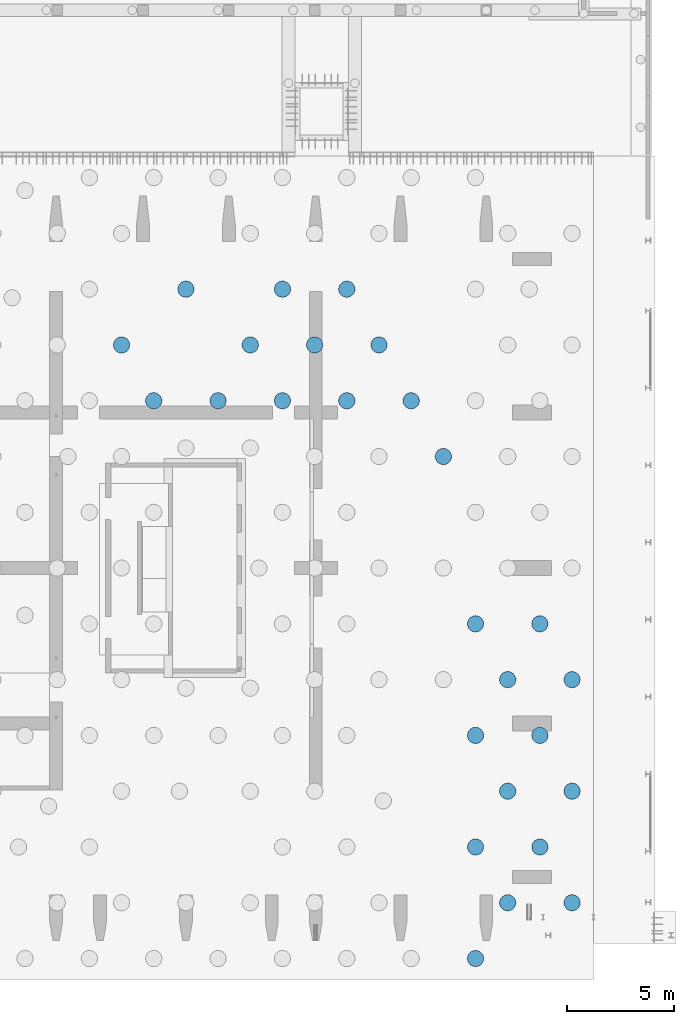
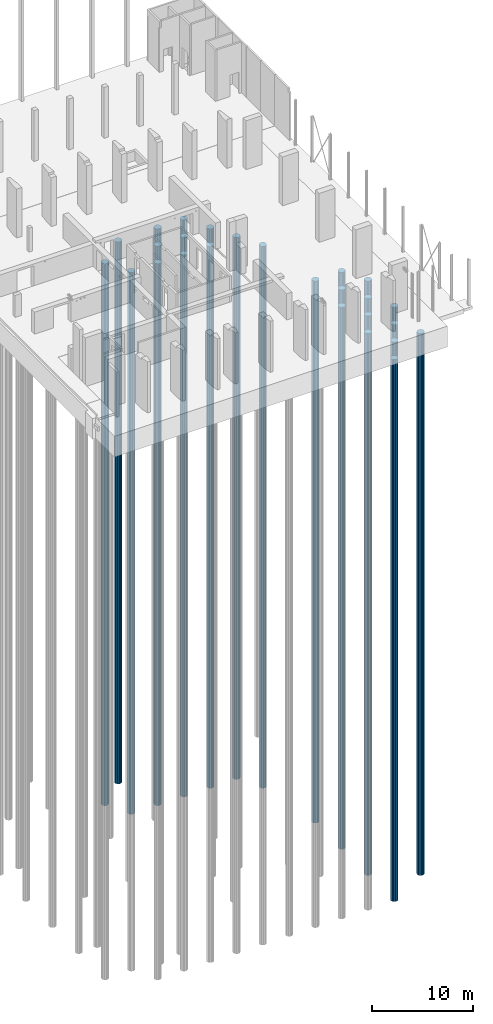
# One storey, part 5 of 26: 26 piles.
"""IFC2X3 building model written with IfcOpenShell, lengths in millimetres."""

from ifc_helpers import new_model, entity, si_unit, converted_unit, derived_unit, direction, frame, origin, place, context, subcontext, project, spatial, polyline, outline, extrude, material, element, save


model = new_model("IFC2X3")

# Units and contexts
model_context = context("Model", 3, precision=0.01, world=origin(), true_north=direction((6.12303176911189e-17, 1.0)))
body_context = subcontext(model_context, "Body", "Model", "MODEL_VIEW")
ifc_project = project(units=[si_unit("LENGTHUNIT", "METRE", prefix="MILLI"), si_unit("AREAUNIT", "SQUARE_METRE"), si_unit("VOLUMEUNIT", "CUBIC_METRE"), converted_unit("PLANEANGLEUNIT", "DEGREE", entity("IfcRatioMeasure", 0.0174532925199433), si_unit("PLANEANGLEUNIT", "RADIAN"), dimensions=[0, 0, 0, 0, 0, 0, 0]), si_unit("MASSUNIT", "GRAM", prefix="KILO"), derived_unit("MASSDENSITYUNIT", [(si_unit("MASSUNIT", "GRAM", prefix="KILO"), 1), (si_unit("LENGTHUNIT", "METRE"), -3)]), si_unit("TIMEUNIT", "SECOND"), si_unit("FREQUENCYUNIT", "HERTZ"), si_unit("THERMODYNAMICTEMPERATUREUNIT", "DEGREE_CELSIUS"), derived_unit("THERMALTRANSMITTANCEUNIT", [(si_unit("MASSUNIT", "GRAM", prefix="KILO"), 1), (si_unit("THERMODYNAMICTEMPERATUREUNIT", "KELVIN"), -1), (si_unit("TIMEUNIT", "SECOND"), -3)]), derived_unit("VOLUMETRICFLOWRATEUNIT", [(si_unit("LENGTHUNIT", "METRE"), 3), (si_unit("TIMEUNIT", "SECOND"), -1)]), si_unit("ELECTRICCURRENTUNIT", "AMPERE"), si_unit("ELECTRICVOLTAGEUNIT", "VOLT"), si_unit("POWERUNIT", "WATT"), si_unit("FORCEUNIT", "NEWTON", prefix="KILO"), si_unit("ILLUMINANCEUNIT", "LUX"), si_unit("LUMINOUSFLUXUNIT", "LUMEN"), si_unit("LUMINOUSINTENSITYUNIT", "CANDELA"), derived_unit("USERDEFINED", [(si_unit("MASSUNIT", "GRAM", prefix="KILO"), -1), (si_unit("LENGTHUNIT", "METRE"), -2), (si_unit("TIMEUNIT", "SECOND"), 3), (si_unit("LUMINOUSFLUXUNIT", "LUMEN"), 1)]), derived_unit("LINEARVELOCITYUNIT", [(si_unit("LENGTHUNIT", "METRE"), 1), (si_unit("TIMEUNIT", "SECOND"), -1)]), si_unit("PRESSUREUNIT", "PASCAL"), derived_unit("USERDEFINED", [(si_unit("LENGTHUNIT", "METRE"), -2), (si_unit("MASSUNIT", "GRAM", prefix="KILO"), 1), (si_unit("TIMEUNIT", "SECOND"), -2)])], contexts=[model_context])

# Site, building, storey
site_placement = place(None, origin())
site = spatial("IfcSite", under=ifc_project, at=site_placement, Name="Default", CompositionType="ELEMENT")
building_placement = place(site_placement, origin())
building = spatial("IfcBuilding", under=site, at=building_placement, Name="niet gebruiken", CompositionType="ELEMENT")
storey_placement = place(building_placement, origin())
storey = spatial("IfcBuildingStorey", under=building, at=storey_placement, Name="00 begane grond", CompositionType="ELEMENT", Elevation=0.0)

# Piles
ifc_material = material(Name="NLRS_f2_beton ihwg")
pile_1_placement = place(storey_placement, origin())
element("IfcPile", 1, at=pile_1_placement, inside=storey, material=ifc_material, Name="NLRS_17.12_SFO_TLB_funderingspaal grondverdringend_gen:Tubex_r762/950", ObjectType="NLRS_17.12_SFO_TLB_funderingspaal grondverdringend_gen:Tubex_r762/950", context=body_context, shape_type="SweptSolid", body=[
    extrude(outline(polyline([(-33.2063379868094, -379.550179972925), (33.2063379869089, -379.550179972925), (161.017557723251, -345.303266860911), (269.407683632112, -269.407683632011), (345.303266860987, -161.017557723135), (379.550179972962, -33.2063379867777), (368.017739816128, 98.6100561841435), (312.096928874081, 218.532622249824), (218.532622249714, 312.096928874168), (98.6100561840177, 368.017739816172), (33.2063379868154, 379.550179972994), (-33.2063379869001, 379.550179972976), (-161.017557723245, 345.30326686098), (-269.407683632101, 269.40768363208), (-345.303266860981, 161.017557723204), (-379.550179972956, 33.2063379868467), (-368.017739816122, -98.6100561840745), (-312.096928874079, -218.532622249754), (-218.532622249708, -312.096928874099), (-98.6100561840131, -368.01773981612), (-33.2063379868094, -379.550179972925)])), frame((146250.0, 30500.0, -68100.0), z_axis=(0.0, 0.0, 1.0), x_axis=(0.087155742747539, -0.996194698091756, 0.0)), (0.0, 0.0, 1.0), 65380.0),
])
pile_2_placement = place(storey_placement, origin())
element("IfcPile", 2, at=pile_2_placement, inside=storey, material=ifc_material, Name="NLRS_17.12_SFO_TLB_funderingspaal grondverdringend_gen:Tubex_r762/950", ObjectType="NLRS_17.12_SFO_TLB_funderingspaal grondverdringend_gen:Tubex_r762/950", context=body_context, shape_type="SweptSolid", body=[
    extrude(outline(polyline([(-33.2063379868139, -379.550179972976), (33.2063379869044, -379.550179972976), (161.017557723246, -345.303266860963), (269.407683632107, -269.407683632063), (345.303266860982, -161.017557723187), (379.550179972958, -33.2063379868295), (368.017739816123, 98.6100561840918), (312.096928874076, 218.532622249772), (218.53262224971, 312.096928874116), (98.6100561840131, 368.01773981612), (33.2063379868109, 379.550179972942), (-33.2063379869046, 379.550179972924), (-161.017557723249, 345.303266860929), (-269.407683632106, 269.407683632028), (-345.303266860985, 161.017557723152), (-379.550179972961, 33.2063379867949), (-368.017739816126, -98.6100561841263), (-312.096928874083, -218.532622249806), (-218.532622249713, -312.096928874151), (-98.6100561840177, -368.017739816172), (-33.2063379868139, -379.550179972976)])), frame((149250.0, 30500.0, -68100.0), z_axis=(0.0, 0.0, 1.0), x_axis=(0.087155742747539, -0.996194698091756, 0.0)), (0.0, 0.0, 1.0), 65380.0),
])
pile_3_placement = place(storey_placement, origin())
element("IfcPile", 3, at=pile_3_placement, inside=storey, material=ifc_material, Name="NLRS_17.12_SFO_TLB_funderingspaal grondverdringend_gen:Tubex_r762/950", ObjectType="NLRS_17.12_SFO_TLB_funderingspaal grondverdringend_gen:Tubex_r762/950", context=body_context, shape_type="SweptSolid", body=[
    extrude(outline(polyline([(-33.2063379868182, -379.550179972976), (33.2063379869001, -379.550179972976), (161.017557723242, -345.303266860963), (269.407683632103, -269.407683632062), (345.303266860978, -161.017557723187), (379.550179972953, -33.2063379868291), (368.017739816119, 98.6100561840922), (312.096928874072, 218.532622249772), (218.532622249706, 312.096928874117), (98.6100561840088, 368.01773981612), (33.2063379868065, 379.550179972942), (-33.2063379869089, 379.550179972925), (-161.017557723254, 345.303266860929), (-269.40768363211, 269.407683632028), (-345.303266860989, 161.017557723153), (-379.550179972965, 33.2063379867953), (-368.01773981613, -98.6100561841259), (-312.096928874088, -218.532622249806), (-218.532622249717, -312.09692887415), (-98.610056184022, -368.017739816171), (-33.2063379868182, -379.550179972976)])), frame((150750.0, 27900.0, -68100.0), z_axis=(0.0, 0.0, 1.0), x_axis=(0.087155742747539, -0.996194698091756, 0.0)), (0.0, 0.0, 1.0), 65380.0),
])
pile_4_placement = place(storey_placement, origin())
element("IfcPile", 4, at=pile_4_placement, inside=storey, material=ifc_material, Name="NLRS_17.12_SFO_TLB_funderingspaal grondverdringend_gen:Tubex_r762/950", ObjectType="NLRS_17.12_SFO_TLB_funderingspaal grondverdringend_gen:Tubex_r762/950", context=body_context, shape_type="SweptSolid", body=[
    extrude(outline(polyline([(-33.2063379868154, -379.550179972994), (33.2063379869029, -379.550179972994), (161.017557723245, -345.30326686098), (269.407683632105, -269.40768363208), (345.303266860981, -161.017557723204), (379.550179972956, -33.2063379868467), (368.017739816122, 98.6100561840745), (312.096928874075, 218.532622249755), (218.532622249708, 312.096928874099), (98.6100561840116, 368.017739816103), (33.2063379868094, 379.550179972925), (-33.2063379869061, 379.550179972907), (-161.017557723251, 345.303266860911), (-269.407683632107, 269.407683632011), (-345.303266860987, 161.017557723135), (-379.550179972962, 33.2063379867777), (-368.017739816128, -98.6100561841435), (-312.096928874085, -218.532622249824), (-218.532622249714, -312.096928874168), (-98.6100561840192, -368.017739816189), (-33.2063379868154, -379.550179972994)])), frame((147750.0, 27900.0, -68100.0), z_axis=(0.0, 0.0, 1.0), x_axis=(0.087155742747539, -0.996194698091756, 0.0)), (0.0, 0.0, 1.0), 65380.0),
])
pile_5_placement = place(storey_placement, origin())
element("IfcPile", 5, at=pile_5_placement, inside=storey, material=ifc_material, Name="NLRS_17.12_SFO_TLB_funderingspaal grondverdringend_gen:Tubex_r762/950", ObjectType="NLRS_17.12_SFO_TLB_funderingspaal grondverdringend_gen:Tubex_r762/950", context=body_context, shape_type="SweptSolid", body=[
    extrude(outline(polyline([(-33.2063379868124, -379.550179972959), (33.2063379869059, -379.550179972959), (161.017557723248, -345.303266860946), (269.407683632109, -269.407683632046), (345.303266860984, -161.01755772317), (379.550179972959, -33.2063379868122), (368.017739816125, 98.610056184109), (312.096928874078, 218.532622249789), (218.532622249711, 312.096928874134), (98.6100561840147, 368.017739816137), (33.2063379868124, 379.550179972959), (-33.2063379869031, 379.550179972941), (-161.017557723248, 345.303266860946), (-269.407683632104, 269.407683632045), (-345.303266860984, 161.01755772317), (-379.550179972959, 33.2063379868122), (-368.017739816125, -98.610056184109), (-312.096928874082, -218.532622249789), (-218.532622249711, -312.096928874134), (-98.6100561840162, -368.017739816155), (-33.2063379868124, -379.550179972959)])), frame((144750.0, 27900.0, -68100.0), z_axis=(0.0, 0.0, 1.0), x_axis=(0.087155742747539, -0.996194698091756, 0.0)), (0.0, 0.0, 1.0), 65380.0),
])
pile_6_placement = place(storey_placement, origin())
element("IfcPile", 6, at=pile_6_placement, inside=storey, material=ifc_material, Name="NLRS_17.12_SFO_TLB_funderingspaal grondverdringend_gen:Tubex_r762/950", ObjectType="NLRS_17.12_SFO_TLB_funderingspaal grondverdringend_gen:Tubex_r762/950", context=body_context, shape_type="SweptSolid", body=[
    extrude(outline(polyline([(-33.2063379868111, -379.550179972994), (33.2063379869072, -379.550179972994), (161.017557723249, -345.303266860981), (269.40768363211, -269.40768363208), (345.303266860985, -161.017557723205), (379.55017997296, -33.2063379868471), (368.017739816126, 98.6100561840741), (312.096928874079, 218.532622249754), (218.532622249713, 312.096928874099), (98.6100561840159, 368.017739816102), (33.2063379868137, 379.550179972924), (-33.2063379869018, 379.550179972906), (-161.017557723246, 345.303266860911), (-269.407683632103, 269.40768363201), (-345.303266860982, 161.017557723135), (-379.550179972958, 33.2063379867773), (-368.017739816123, -98.6100561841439), (-312.096928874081, -218.532622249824), (-218.53262224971, -312.096928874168), (-98.6100561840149, -368.01773981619), (-33.2063379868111, -379.550179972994)])), frame((141750.0, 30500.0, -68100.0), z_axis=(0.0, 0.0, 1.0), x_axis=(0.087155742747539, -0.996194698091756, 0.0)), (0.0, 0.0, 1.0), 65380.0),
])
pile_7_placement = place(storey_placement, origin())
element("IfcPile", 7, at=pile_7_placement, inside=storey, material=ifc_material, Name="NLRS_17.12_SFO_TLB_funderingspaal grondverdringend_gen:Tubex_r762/950", ObjectType="NLRS_17.12_SFO_TLB_funderingspaal grondverdringend_gen:Tubex_r762/950", context=body_context, shape_type="SweptSolid", body=[
    extrude(outline(polyline([(-33.2063379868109, -379.550179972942), (33.2063379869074, -379.550179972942), (161.017557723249, -345.303266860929), (269.40768363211, -269.407683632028), (345.303266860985, -161.017557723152), (379.550179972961, -33.2063379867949), (368.017739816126, 98.6100561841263), (312.096928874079, 218.532622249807), (218.532622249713, 312.096928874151), (98.6100561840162, 368.017739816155), (33.2063379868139, 379.550179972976), (-33.2063379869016, 379.550179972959), (-161.017557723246, 345.303266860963), (-269.407683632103, 269.407683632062), (-345.303266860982, 161.017557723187), (-379.550179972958, 33.2063379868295), (-368.017739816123, -98.6100561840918), (-312.09692887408, -218.532622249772), (-218.53262224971, -312.096928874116), (-98.6100561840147, -368.017739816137), (-33.2063379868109, -379.550179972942)])), frame((138750.0, 27900.0, -68100.0), z_axis=(0.0, 0.0, 1.0), x_axis=(0.087155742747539, -0.996194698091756, 0.0)), (0.0, 0.0, 1.0), 65380.0),
])
pile_8_placement = place(storey_placement, origin())
element("IfcPile", 8, at=pile_8_placement, inside=storey, material=ifc_material, Name="NLRS_17.12_SFO_TLB_funderingspaal grondverdringend_gen:Tubex_r762/950", ObjectType="NLRS_17.12_SFO_TLB_funderingspaal grondverdringend_gen:Tubex_r762/950", context=body_context, shape_type="SweptSolid", body=[
    extrude(outline(polyline([(-33.206337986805, -379.550179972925), (33.2063379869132, -379.550179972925), (161.017557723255, -345.303266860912), (269.407683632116, -269.407683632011), (345.303266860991, -161.017557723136), (379.550179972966, -33.2063379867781), (368.017739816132, 98.6100561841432), (312.096928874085, 218.532622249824), (218.532622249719, 312.096928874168), (98.610056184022, 368.017739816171), (33.2063379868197, 379.550179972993), (-33.2063379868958, 379.550179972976), (-161.01755772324, 345.30326686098), (-269.407683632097, 269.407683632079), (-345.303266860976, 161.017557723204), (-379.550179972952, 33.2063379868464), (-368.017739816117, -98.6100561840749), (-312.096928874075, -218.532622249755), (-218.532622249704, -312.096928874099), (-98.6100561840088, -368.01773981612), (-33.206337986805, -379.550179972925)])), frame((140250.0, 25300.0, -68100.0), z_axis=(0.0, 0.0, 1.0), x_axis=(0.087155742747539, -0.996194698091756, 0.0)), (0.0, 0.0, 1.0), 65380.0),
])
pile_9_placement = place(storey_placement, origin())
element("IfcPile", 9, at=pile_9_placement, inside=storey, material=ifc_material, Name="NLRS_17.12_SFO_TLB_funderingspaal grondverdringend_gen:Tubex_r762/950", ObjectType="NLRS_17.12_SFO_TLB_funderingspaal grondverdringend_gen:Tubex_r762/950", context=body_context, shape_type="SweptSolid", body=[
    extrude(outline(polyline([(-33.2063379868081, -379.550179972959), (33.2063379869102, -379.550179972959), (161.017557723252, -345.303266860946), (269.407683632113, -269.407683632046), (345.303266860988, -161.01755772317), (379.550179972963, -33.2063379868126), (368.017739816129, 98.6100561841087), (312.096928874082, 218.532622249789), (218.532622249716, 312.096928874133), (98.610056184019, 368.017739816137), (33.2063379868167, 379.550179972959), (-33.2063379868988, 379.550179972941), (-161.017557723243, 345.303266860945), (-269.4076836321, 269.407683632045), (-345.303266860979, 161.017557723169), (-379.550179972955, 33.2063379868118), (-368.01773981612, -98.6100561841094), (-312.096928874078, -218.532622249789), (-218.532622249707, -312.096928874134), (-98.6100561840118, -368.017739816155), (-33.2063379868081, -379.550179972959)])), frame((143250.0, 25300.0, -68100.0), z_axis=(0.0, 0.0, 1.0), x_axis=(0.087155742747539, -0.996194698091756, 0.0)), (0.0, 0.0, 1.0), 65380.0),
])
pile_10_placement = place(storey_placement, origin())
element("IfcPile", 10, at=pile_10_placement, inside=storey, material=ifc_material, Name="NLRS_17.12_SFO_TLB_funderingspaal grondverdringend_gen:Tubex_r762/950", ObjectType="NLRS_17.12_SFO_TLB_funderingspaal grondverdringend_gen:Tubex_r762/950", context=body_context, shape_type="SweptSolid", body=[
    extrude(outline(polyline([(-33.2063379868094, -379.550179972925), (33.2063379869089, -379.550179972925), (161.017557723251, -345.303266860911), (269.407683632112, -269.407683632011), (345.303266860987, -161.017557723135), (379.550179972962, -33.2063379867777), (368.017739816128, 98.6100561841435), (312.096928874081, 218.532622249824), (218.532622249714, 312.096928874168), (98.6100561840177, 368.017739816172), (33.2063379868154, 379.550179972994), (-33.2063379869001, 379.550179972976), (-161.017557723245, 345.30326686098), (-269.407683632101, 269.40768363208), (-345.303266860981, 161.017557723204), (-379.550179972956, 33.2063379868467), (-368.017739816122, -98.6100561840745), (-312.096928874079, -218.532622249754), (-218.532622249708, -312.096928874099), (-98.6100561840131, -368.01773981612), (-33.2063379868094, -379.550179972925)])), frame((146250.0, 25300.0, -68100.0), z_axis=(0.0, 0.0, 1.0), x_axis=(0.087155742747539, -0.996194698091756, 0.0)), (0.0, 0.0, 1.0), 65380.0),
])
pile_11_placement = place(storey_placement, origin())
element("IfcPile", 11, at=pile_11_placement, inside=storey, material=ifc_material, Name="NLRS_17.12_SFO_TLB_funderingspaal grondverdringend_gen:Tubex_r762/950", ObjectType="NLRS_17.12_SFO_TLB_funderingspaal grondverdringend_gen:Tubex_r762/950", context=body_context, shape_type="SweptSolid", body=[
    extrude(outline(polyline([(-33.2063379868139, -379.550179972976), (33.2063379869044, -379.550179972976), (161.017557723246, -345.303266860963), (269.407683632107, -269.407683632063), (345.303266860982, -161.017557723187), (379.550179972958, -33.2063379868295), (368.017739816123, 98.6100561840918), (312.096928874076, 218.532622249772), (218.53262224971, 312.096928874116), (98.6100561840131, 368.01773981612), (33.2063379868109, 379.550179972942), (-33.2063379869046, 379.550179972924), (-161.017557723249, 345.303266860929), (-269.407683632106, 269.407683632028), (-345.303266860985, 161.017557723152), (-379.550179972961, 33.2063379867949), (-368.017739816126, -98.6100561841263), (-312.096928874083, -218.532622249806), (-218.532622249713, -312.096928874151), (-98.6100561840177, -368.017739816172), (-33.2063379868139, -379.550179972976)])), frame((149250.0, 25300.0, -68100.0), z_axis=(0.0, 0.0, 1.0), x_axis=(0.087155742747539, -0.996194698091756, 0.0)), (0.0, 0.0, 1.0), 65380.0),
])
pile_12_placement = place(storey_placement, origin())
element("IfcPile", 12, at=pile_12_placement, inside=storey, material=ifc_material, Name="NLRS_17.12_SFO_TLB_funderingspaal grondverdringend_gen:Tubex_r762/950", ObjectType="NLRS_17.12_SFO_TLB_funderingspaal grondverdringend_gen:Tubex_r762/950", context=body_context, shape_type="SweptSolid", body=[
    extrude(outline(polyline([(-33.2063379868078, -379.550179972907), (33.2063379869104, -379.550179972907), (161.017557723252, -345.303266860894), (269.407683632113, -269.407683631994), (345.303266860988, -161.017557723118), (379.550179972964, -33.2063379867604), (368.017739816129, 98.6100561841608), (312.096928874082, 218.532622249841), (218.532622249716, 312.096928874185), (98.6100561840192, 368.017739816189), (33.2063379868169, 379.550179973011), (-33.2063379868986, 379.550179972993), (-161.017557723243, 345.303266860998), (-269.4076836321, 269.407683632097), (-345.303266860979, 161.017557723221), (-379.550179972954, 33.206337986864), (-368.01773981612, -98.6100561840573), (-312.096928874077, -218.532622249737), (-218.532622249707, -312.096928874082), (-98.6100561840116, -368.017739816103), (-33.2063379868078, -379.550179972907)])), frame((152250.0, 25300.0, -68100.0), z_axis=(0.0, 0.0, 1.0), x_axis=(0.087155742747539, -0.996194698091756, 0.0)), (0.0, 0.0, 1.0), 65380.0),
])
pile_13_placement = place(storey_placement, origin())
element("IfcPile", 13, at=pile_13_placement, inside=storey, material=ifc_material, Name="NLRS_17.12_SFO_TLB_funderingspaal grondverdringend_gen:Tubex_r762/950", ObjectType="NLRS_17.12_SFO_TLB_funderingspaal grondverdringend_gen:Tubex_r762/950", context=body_context, shape_type="SweptSolid", body=[
    extrude(outline(polyline([(-33.2063379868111, -379.550179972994), (33.2063379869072, -379.550179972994), (161.017557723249, -345.303266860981), (269.40768363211, -269.40768363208), (345.303266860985, -161.017557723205), (379.55017997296, -33.2063379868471), (368.017739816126, 98.6100561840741), (312.096928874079, 218.532622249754), (218.532622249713, 312.096928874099), (98.6100561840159, 368.017739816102), (33.2063379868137, 379.550179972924), (-33.2063379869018, 379.550179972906), (-161.017557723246, 345.303266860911), (-269.407683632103, 269.40768363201), (-345.303266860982, 161.017557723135), (-379.550179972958, 33.2063379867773), (-368.017739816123, -98.6100561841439), (-312.096928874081, -218.532622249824), (-218.53262224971, -312.096928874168), (-98.6100561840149, -368.01773981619), (-33.2063379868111, -379.550179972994)])), frame((153750.0, 22700.0, -68100.0), z_axis=(0.0, 0.0, 1.0), x_axis=(0.087155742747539, -0.996194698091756, 0.0)), (0.0, 0.0, 1.0), 65380.0),
])
pile_14_placement = place(storey_placement, origin())
element("IfcPile", 14, at=pile_14_placement, inside=storey, material=ifc_material, Name="NLRS_17.12_SFO_TLB_funderingspaal grondverdringend_gen:Tubex_r762/950", ObjectType="NLRS_17.12_SFO_TLB_funderingspaal grondverdringend_gen:Tubex_r762/950", context=body_context, shape_type="SweptSolid", body=[
    extrude(outline(polyline([(-33.2063379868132, -379.550179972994), (33.2063379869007, -379.550179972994), (161.017557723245, -345.303266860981), (269.407683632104, -269.407683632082), (345.303266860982, -161.017557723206), (379.550179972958, -33.2063379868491), (368.017739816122, 98.6100561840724), (312.09692887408, 218.532622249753), (218.532622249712, 312.096928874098), (98.6100561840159, 368.017739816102), (33.2063379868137, 379.550179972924), (-33.2063379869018, 379.550179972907), (-161.017557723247, 345.303266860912), (-269.407683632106, 269.407683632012), (-345.303266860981, 161.017557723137), (-379.55017997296, 33.2063379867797), (-368.017739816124, -98.6100561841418), (-312.096928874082, -218.532622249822), (-218.532622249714, -312.096928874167), (-98.6100561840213, -368.017739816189), (-33.2063379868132, -379.550179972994)])), frame((155250.0, 14900.0, -68100.0), z_axis=(0.0, 0.0, 1.0), x_axis=(0.0871557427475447, -0.996194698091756, 0.0)), (0.0, 0.0, 1.0), 65380.0),
])
pile_15_placement = place(storey_placement, origin())
element("IfcPile", 15, at=pile_15_placement, inside=storey, material=ifc_material, Name="NLRS_17.12_SFO_TLB_funderingspaal grondverdringend_gen:Tubex_r762/950", ObjectType="NLRS_17.12_SFO_TLB_funderingspaal grondverdringend_gen:Tubex_r762/950", context=body_context, shape_type="SweptSolid", body=[
    extrude(outline(polyline([(-33.2063379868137, -379.550179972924), (33.2063379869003, -379.550179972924), (161.017557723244, -345.303266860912), (269.407683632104, -269.407683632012), (345.303266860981, -161.017557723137), (379.550179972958, -33.2063379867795), (368.017739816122, 98.610056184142), (312.09692887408, 218.532622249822), (218.532622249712, 312.096928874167), (98.610056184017, 368.017739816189), (33.2063379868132, 379.550179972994), (-33.2063379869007, 379.550179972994), (-161.017557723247, 345.303266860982), (-269.407683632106, 269.407683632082), (-345.303266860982, 161.017557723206), (-379.55017997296, 33.2063379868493), (-368.017739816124, -98.6100561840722), (-312.096928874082, -218.532622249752), (-218.532622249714, -312.096928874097), (-98.6100561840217, -368.017739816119), (-33.2063379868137, -379.550179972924)])), frame((158250.0, 14900.0, -68100.0), z_axis=(0.0, 0.0, 1.0), x_axis=(0.0871557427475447, -0.996194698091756, 0.0)), (0.0, 0.0, 1.0), 65380.0),
])
pile_16_placement = place(storey_placement, origin())
element("IfcPile", 16, at=pile_16_placement, inside=storey, material=ifc_material, Name="NLRS_17.12_SFO_TLB_funderingspaal grondverdringend_gen:Tubex_r762/950", ObjectType="NLRS_17.12_SFO_TLB_funderingspaal grondverdringend_gen:Tubex_r762/950", context=body_context, shape_type="SweptSolid", body=[
    extrude(outline(polyline([(-33.2063379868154, -379.550179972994), (33.2063379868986, -379.550179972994), (161.017557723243, -345.303266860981), (269.407683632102, -269.407683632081), (345.30326686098, -161.017557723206), (379.550179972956, -33.206337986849), (368.01773981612, 98.6100561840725), (312.096928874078, 218.532622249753), (218.53262224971, 312.096928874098), (98.6100561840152, 368.017739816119), (33.2063379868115, 379.550179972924), (-33.2063379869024, 379.550179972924), (-161.017557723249, 345.303266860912), (-269.407683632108, 269.407683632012), (-345.303266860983, 161.017557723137), (-379.550179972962, 33.2063379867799), (-368.017739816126, -98.6100561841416), (-312.096928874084, -218.532622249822), (-218.532622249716, -312.096928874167), (-98.6100561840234, -368.017739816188), (-33.2063379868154, -379.550179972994)])), frame((159750.0, 12300.0, -68100.0), z_axis=(0.0, 0.0, 1.0), x_axis=(0.0871557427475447, -0.996194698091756, 0.0)), (0.0, 0.0, 1.0), 65380.0),
])
pile_17_placement = place(storey_placement, origin())
element("IfcPile", 17, at=pile_17_placement, inside=storey, material=ifc_material, Name="NLRS_17.12_SFO_TLB_funderingspaal grondverdringend_gen:Tubex_r762/950", ObjectType="NLRS_17.12_SFO_TLB_funderingspaal grondverdringend_gen:Tubex_r762/950", context=body_context, shape_type="SweptSolid", body=[
    extrude(outline(polyline([(-33.2063379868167, -379.550179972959), (33.2063379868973, -379.550179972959), (161.017557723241, -345.303266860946), (269.4076836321, -269.407683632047), (345.303266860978, -161.017557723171), (379.550179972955, -33.206337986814), (368.017739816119, 98.6100561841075), (312.096928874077, 218.532622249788), (218.532622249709, 312.096928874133), (98.6100561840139, 368.017739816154), (33.2063379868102, 379.550179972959), (-33.2063379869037, 379.550179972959), (-161.01755772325, 345.303266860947), (-269.407683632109, 269.407683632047), (-345.303266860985, 161.017557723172), (-379.550179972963, 33.2063379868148), (-368.017739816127, -98.6100561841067), (-312.096928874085, -218.532622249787), (-218.532622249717, -312.096928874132), (-98.6100561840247, -368.017739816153), (-33.2063379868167, -379.550179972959)])), frame((156750.0, 12300.0, -68100.0), z_axis=(0.0, 0.0, 1.0), x_axis=(0.0871557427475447, -0.996194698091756, 0.0)), (0.0, 0.0, 1.0), 65380.0),
])
pile_18_placement = place(storey_placement, origin())
element("IfcPile", 18, at=pile_18_placement, inside=storey, material=ifc_material, Name="NLRS_17.12_SFO_TLB_funderingspaal grondverdringend_gen:Tubex_r762/950", ObjectType="NLRS_17.12_SFO_TLB_funderingspaal grondverdringend_gen:Tubex_r762/950", context=body_context, shape_type="SweptSolid", body=[
    extrude(outline(polyline([(-33.2063379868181, -379.550179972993), (33.2063379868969, -379.550179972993), (161.017557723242, -345.303266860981), (269.407683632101, -269.407683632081), (345.303266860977, -161.017557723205), (379.550179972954, -33.2063379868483), (368.017739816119, 98.6100561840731), (312.096928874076, 218.532622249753), (218.532622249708, 312.096928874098), (98.6100561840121, 368.017739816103), (33.2063379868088, 379.550179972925), (-33.2063379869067, 379.550179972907), (-161.017557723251, 345.303266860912), (-269.40768363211, 269.407683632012), (-345.303266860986, 161.017557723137), (-379.550179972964, 33.2063379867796), (-368.017739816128, -98.6100561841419), (-312.096928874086, -218.532622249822), (-218.532622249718, -312.096928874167), (-98.6100561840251, -368.017739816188), (-33.2063379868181, -379.550179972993)])), frame((155250.0, 9700.0, -68100.0), z_axis=(0.0, 0.0, 1.0), x_axis=(0.0871557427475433, -0.996194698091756, 0.0)), (0.0, 0.0, 1.0), 65380.0),
])
pile_19_placement = place(storey_placement, origin())
element("IfcPile", 19, at=pile_19_placement, inside=storey, material=ifc_material, Name="NLRS_17.12_SFO_TLB_funderingspaal grondverdringend_gen:Tubex_r762/950", ObjectType="NLRS_17.12_SFO_TLB_funderingspaal grondverdringend_gen:Tubex_r762/950", context=body_context, shape_type="SweptSolid", body=[
    extrude(outline(polyline([(-33.2063379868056, -379.550179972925), (33.2063379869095, -379.550179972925), (161.017557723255, -345.303266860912), (269.407683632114, -269.407683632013), (345.303266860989, -161.017557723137), (379.550179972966, -33.2063379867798), (368.017739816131, 98.6100561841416), (312.096928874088, 218.532622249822), (218.53262224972, 312.096928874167), (98.6100561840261, 368.017739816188), (33.2063379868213, 379.550179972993), (-33.2063379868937, 379.550179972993), (-161.017557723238, 345.303266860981), (-269.407683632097, 269.407683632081), (-345.303266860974, 161.017557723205), (-379.55017997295, 33.206337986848), (-368.017739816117, -98.6100561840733), (-312.096928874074, -218.532622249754), (-218.532622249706, -312.096928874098), (-98.6100561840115, -368.01773981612), (-33.2063379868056, -379.550179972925)])), frame((158250.0, 9700.0, -68100.0), z_axis=(0.0, 0.0, 1.0), x_axis=(0.0871557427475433, -0.996194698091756, 0.0)), (0.0, 0.0, 1.0), 65380.0),
])
pile_20_placement = place(storey_placement, origin())
element("IfcPile", 20, at=pile_20_placement, inside=storey, material=ifc_material, Name="NLRS_17.12_SFO_TLB_funderingspaal grondverdringend_gen:Tubex_r762/950", ObjectType="NLRS_17.12_SFO_TLB_funderingspaal grondverdringend_gen:Tubex_r762/950", context=body_context, shape_type="SweptSolid", body=[
    extrude(outline(polyline([(-33.2063379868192, -379.550179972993), (33.2063379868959, -379.550179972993), (161.017557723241, -345.303266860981), (269.4076836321, -269.407683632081), (345.303266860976, -161.017557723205), (379.550179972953, -33.2063379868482), (368.017739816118, 98.6100561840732), (312.096928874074, 218.532622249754), (218.532622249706, 312.096928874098), (98.6100561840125, 368.01773981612), (33.2063379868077, 379.550179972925), (-33.2063379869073, 379.550179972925), (-161.017557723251, 345.303266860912), (-269.407683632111, 269.407683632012), (-345.303266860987, 161.017557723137), (-379.550179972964, 33.2063379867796), (-368.01773981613, -98.6100561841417), (-312.096928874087, -218.532622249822), (-218.532622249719, -312.096928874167), (-98.6100561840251, -368.017739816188), (-33.2063379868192, -379.550179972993)])), frame((159750.0, 7100.0, -68100.0), z_axis=(0.0, 0.0, 1.0), x_axis=(0.0871557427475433, -0.996194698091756, 0.0)), (0.0, 0.0, 1.0), 65380.0),
])
pile_21_placement = place(storey_placement, origin())
element("IfcPile", 21, at=pile_21_placement, inside=storey, material=ifc_material, Name="NLRS_17.12_SFO_TLB_funderingspaal grondverdringend_gen:Tubex_r762/950", ObjectType="NLRS_17.12_SFO_TLB_funderingspaal grondverdringend_gen:Tubex_r762/950", context=body_context, shape_type="SweptSolid", body=[
    extrude(outline(polyline([(-33.2063379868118, -379.550179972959), (33.2063379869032, -379.550179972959), (161.017557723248, -345.303266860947), (269.407683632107, -269.407683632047), (345.303266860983, -161.017557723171), (379.55017997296, -33.206337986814), (368.017739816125, 98.6100561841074), (312.096928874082, 218.532622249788), (218.532622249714, 312.096928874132), (98.6100561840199, 368.017739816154), (33.2063379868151, 379.550179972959), (-33.2063379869, 379.550179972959), (-161.017557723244, 345.303266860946), (-269.407683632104, 269.407683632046), (-345.30326686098, 161.017557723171), (-379.550179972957, 33.2063379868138), (-368.017739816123, -98.6100561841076), (-312.09692887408, -218.532622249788), (-218.532622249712, -312.096928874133), (-98.6100561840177, -368.017739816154), (-33.2063379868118, -379.550179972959)])), frame((156750.0, 7100.0, -68100.0), z_axis=(0.0, 0.0, 1.0), x_axis=(0.0871557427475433, -0.996194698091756, 0.0)), (0.0, 0.0, 1.0), 65380.0),
])
pile_22_placement = place(storey_placement, origin())
element("IfcPile", 22, at=pile_22_placement, inside=storey, material=ifc_material, Name="NLRS_17.12_SFO_TLB_funderingspaal grondverdringend_gen:Tubex_r762/950", ObjectType="NLRS_17.12_SFO_TLB_funderingspaal grondverdringend_gen:Tubex_r762/950", context=body_context, shape_type="SweptSolid", body=[
    extrude(outline(polyline([(-33.2063379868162, -379.550179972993), (33.2063379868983, -379.550179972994), (161.017557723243, -345.303266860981), (269.407683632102, -269.407683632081), (345.303266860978, -161.017557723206), (379.550179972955, -33.2063379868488), (368.01773981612, 98.6100561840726), (312.096928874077, 218.532622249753), (218.532622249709, 312.096928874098), (98.6100561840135, 368.017739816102), (33.2063379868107, 379.550179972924), (-33.2063379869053, 379.550179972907), (-161.017557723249, 345.303266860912), (-269.407683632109, 269.407683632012), (-345.303266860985, 161.017557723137), (-379.550179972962, 33.2063379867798), (-368.017739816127, -98.6100561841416), (-312.096928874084, -218.532622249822), (-218.532622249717, -312.096928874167), (-98.6100561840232, -368.017739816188), (-33.2063379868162, -379.550179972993)])), frame((155250.0, 4500.0, -68100.0), z_axis=(0.0, 0.0, 1.0), x_axis=(0.087155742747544, -0.996194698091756, 0.0)), (0.0, 0.0, 1.0), 65380.0),
])
pile_23_placement = place(storey_placement, origin())
element("IfcPile", 23, at=pile_23_placement, inside=storey, material=ifc_material, Name="NLRS_17.12_SFO_TLB_funderingspaal grondverdringend_gen:Tubex_r762/950", ObjectType="NLRS_17.12_SFO_TLB_funderingspaal grondverdringend_gen:Tubex_r762/950", context=body_context, shape_type="SweptSolid", body=[
    extrude(outline(polyline([(-33.2063379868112, -379.550179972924), (33.2063379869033, -379.550179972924), (161.017557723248, -345.303266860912), (269.407683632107, -269.407683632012), (345.303266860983, -161.017557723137), (379.55017997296, -33.2063379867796), (368.017739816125, 98.6100561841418), (312.096928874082, 218.532622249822), (218.532622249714, 312.096928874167), (98.6100561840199, 368.017739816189), (33.2063379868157, 379.550179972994), (-33.2063379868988, 379.550179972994), (-161.017557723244, 345.303266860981), (-269.407683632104, 269.407683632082), (-345.30326686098, 161.017557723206), (-379.550179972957, 33.206337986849), (-368.017739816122, -98.6100561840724), (-312.096928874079, -218.532622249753), (-218.532622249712, -312.096928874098), (-98.6100561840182, -368.017739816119), (-33.2063379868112, -379.550179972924)])), frame((158250.0, 4500.0, -68100.0), z_axis=(0.0, 0.0, 1.0), x_axis=(0.087155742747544, -0.996194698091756, 0.0)), (0.0, 0.0, 1.0), 65380.0),
])
pile_24_placement = place(storey_placement, origin())
element("IfcPile", 24, at=pile_24_placement, inside=storey, material=ifc_material, Name="NLRS_17.12_SFO_TLB_funderingspaal grondverdringend_gen:Tubex_r762/950", ObjectType="NLRS_17.12_SFO_TLB_funderingspaal grondverdringend_gen:Tubex_r762/950", context=body_context, shape_type="SweptSolid", body=[
    extrude(outline(polyline([(-33.2063379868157, -379.550179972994), (33.2063379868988, -379.550179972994), (161.017557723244, -345.303266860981), (269.407683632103, -269.407683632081), (345.303266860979, -161.017557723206), (379.550179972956, -33.2063379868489), (368.017739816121, 98.6100561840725), (312.096928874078, 218.532622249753), (218.532622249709, 312.096928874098), (98.6100561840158, 368.017739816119), (33.2063379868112, 379.550179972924), (-33.2063379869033, 379.550179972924), (-161.017557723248, 345.303266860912), (-269.407683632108, 269.407683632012), (-345.303266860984, 161.017557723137), (-379.550179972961, 33.2063379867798), (-368.017739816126, -98.6100561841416), (-312.096928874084, -218.532622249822), (-218.532622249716, -312.096928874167), (-98.6100561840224, -368.017739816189), (-33.2063379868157, -379.550179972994)])), frame((159750.0, 1900.0, -68100.0), z_axis=(0.0, 0.0, 1.0), x_axis=(0.087155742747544, -0.996194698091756, 0.0)), (0.0, 0.0, 1.0), 65380.0),
])
pile_25_placement = place(storey_placement, origin())
element("IfcPile", 25, at=pile_25_placement, inside=storey, material=ifc_material, Name="NLRS_17.12_SFO_TLB_funderingspaal grondverdringend_gen:Tubex_r762/950", ObjectType="NLRS_17.12_SFO_TLB_funderingspaal grondverdringend_gen:Tubex_r762/950", context=body_context, shape_type="SweptSolid", body=[
    extrude(outline(polyline([(-33.2063379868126, -379.550179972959), (33.2063379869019, -379.550179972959), (161.017557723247, -345.303266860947), (269.407683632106, -269.407683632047), (345.303266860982, -161.017557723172), (379.550179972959, -33.2063379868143), (368.017739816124, 98.6100561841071), (312.096928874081, 218.532622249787), (218.532622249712, 312.096928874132), (98.6100561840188, 368.017739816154), (33.2063379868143, 379.550179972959), (-33.2063379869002, 379.550179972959), (-161.017557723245, 345.303266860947), (-269.407683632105, 269.407683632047), (-345.303266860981, 161.017557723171), (-379.550179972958, 33.2063379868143), (-368.017739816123, -98.6100561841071), (-312.096928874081, -218.532622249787), (-218.532622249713, -312.096928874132), (-98.6100561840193, -368.017739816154), (-33.2063379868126, -379.550179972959)])), frame((156750.0, 1900.0, -68100.0), z_axis=(0.0, 0.0, 1.0), x_axis=(0.087155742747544, -0.996194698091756, 0.0)), (0.0, 0.0, 1.0), 65380.0),
])
pile_26_placement = place(storey_placement, origin())
element("IfcPile", 26, at=pile_26_placement, inside=storey, material=ifc_material, Name="NLRS_17.12_SFO_TLB_funderingspaal grondverdringend_gen:Tubex_r762/950", ObjectType="NLRS_17.12_SFO_TLB_funderingspaal grondverdringend_gen:Tubex_r762/950", context=body_context, shape_type="SweptSolid", body=[
    extrude(outline(polyline([(-33.2063379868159, -379.550179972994), (33.2063379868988, -379.550179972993), (161.017557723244, -345.303266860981), (269.407683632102, -269.407683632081), (345.303266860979, -161.017557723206), (379.550179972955, -33.2063379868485), (368.01773981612, 98.6100561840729), (312.096928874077, 218.532622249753), (218.532622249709, 312.096928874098), (98.6100561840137, 368.017739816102), (33.206337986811, 379.550179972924), (-33.2063379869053, 379.550179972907), (-161.017557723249, 345.303266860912), (-269.407683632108, 269.407683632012), (-345.303266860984, 161.017557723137), (-379.550179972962, 33.2063379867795), (-368.017739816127, -98.6100561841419), (-312.096928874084, -218.532622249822), (-218.532622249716, -312.096928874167), (-98.6100561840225, -368.017739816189), (-33.2063379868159, -379.550179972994)])), frame((155250.0, -700.0, -68100.0), z_axis=(0.0, 0.0, 1.0), x_axis=(0.0871557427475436, -0.996194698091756, 0.0)), (0.0, 0.0, 1.0), 65380.0),
])

save(model, "model.ifc")
